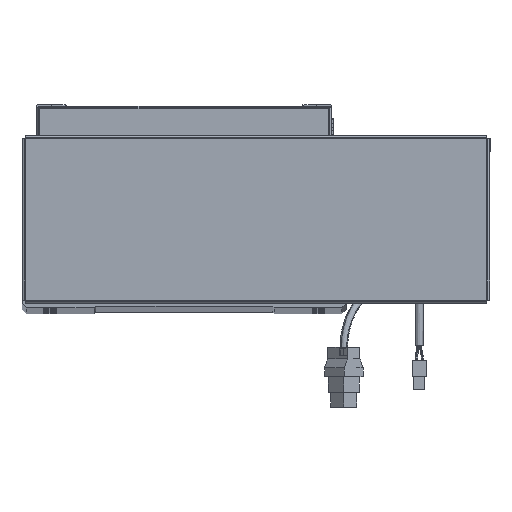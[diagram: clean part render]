
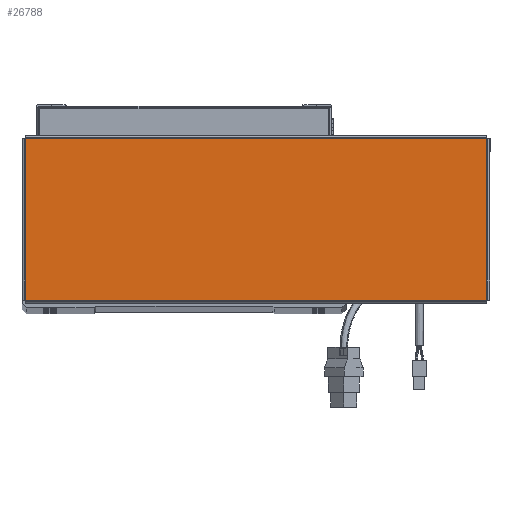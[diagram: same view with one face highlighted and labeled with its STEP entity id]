
A CAD part, top view. The second image highlights one B-rep face of the part: STEP entity #26788.
In plain terms, the highlighted planar face has unit normal (0, 0, 1).
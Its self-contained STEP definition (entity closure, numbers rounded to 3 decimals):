
#2400 = ORIENTED_EDGE ( 'NONE', *, *, #50970, .T. ) ;
#2709 = DIRECTION ( 'NONE',  ( 1., 0., 0. ) ) ;
#6666 = CARTESIAN_POINT ( 'NONE',  ( 156.513, -54.793, 0. ) ) ;
#10905 = ORIENTED_EDGE ( 'NONE', *, *, #60855, .T. ) ;
#11087 = VERTEX_POINT ( 'NONE', #29576 ) ;
#12196 = VECTOR ( 'NONE', #47466, 1000. ) ;
#13626 = CARTESIAN_POINT ( 'NONE',  ( 0., 0., 0. ) ) ;
#14850 = LINE ( 'NONE', #43629, #21895 ) ;
#16203 = DIRECTION ( 'NONE',  ( -1., 0., 0. ) ) ;
#17076 = DIRECTION ( 'NONE',  ( 0., 1., 0. ) ) ;
#18857 = VECTOR ( 'NONE', #36918, 1000. ) ;
#19356 = CARTESIAN_POINT ( 'NONE',  ( 156.513, -54.763, 0. ) ) ;
#19473 = DIRECTION ( 'NONE',  ( 0., 0., 1. ) ) ;
#20239 = ORIENTED_EDGE ( 'NONE', *, *, #28988, .T. ) ;
#21895 = VECTOR ( 'NONE', #16203, 1000. ) ;
#26597 = CARTESIAN_POINT ( 'NONE',  ( -156.513, 54.763, 0. ) ) ;
#26788 = ADVANCED_FACE ( 'NONE', ( #55495 ), #36687, .T. ) ;
#28988 = EDGE_CURVE ( 'NONE', #65441, #68392, #33643, .T. ) ;
#29576 = CARTESIAN_POINT ( 'NONE',  ( 156.513, 54.763, 0. ) ) ;
#33643 = LINE ( 'NONE', #59708, #18857 ) ;
#34417 = EDGE_CURVE ( 'NONE', #11087, #65441, #14850, .T. ) ;
#35435 = CARTESIAN_POINT ( 'NONE',  ( -156.513, -54.763, 0. ) ) ;
#35844 = CARTESIAN_POINT ( 'NONE',  ( -156.543, -54.763, 0. ) ) ;
#36687 = PLANE ( 'NONE',  #67768 ) ;
#36918 = DIRECTION ( 'NONE',  ( 0., -1., 0. ) ) ;
#43629 = CARTESIAN_POINT ( 'NONE',  ( 156.543, 54.763, 0. ) ) ;
#45836 = VERTEX_POINT ( 'NONE', #19356 ) ;
#47057 = ORIENTED_EDGE ( 'NONE', *, *, #34417, .T. ) ;
#47466 = DIRECTION ( 'NONE',  ( 1., 0., 0. ) ) ;
#50970 = EDGE_CURVE ( 'NONE', #45836, #11087, #65656, .T. ) ;
#55495 = FACE_OUTER_BOUND ( 'NONE', #65230, .T. ) ;
#59708 = CARTESIAN_POINT ( 'NONE',  ( -156.513, 54.793, 0. ) ) ;
#60855 = EDGE_CURVE ( 'NONE', #68392, #45836, #71230, .T. ) ;
#63912 = VECTOR ( 'NONE', #17076, 1000. ) ;
#65230 = EDGE_LOOP ( 'NONE', ( #10905, #2400, #47057, #20239 ) ) ;
#65441 = VERTEX_POINT ( 'NONE', #26597 ) ;
#65656 = LINE ( 'NONE', #6666, #63912 ) ;
#67768 = AXIS2_PLACEMENT_3D ( 'NONE', #13626, #19473, #2709 ) ;
#68392 = VERTEX_POINT ( 'NONE', #35435 ) ;
#71230 = LINE ( 'NONE', #35844, #12196 ) ;
